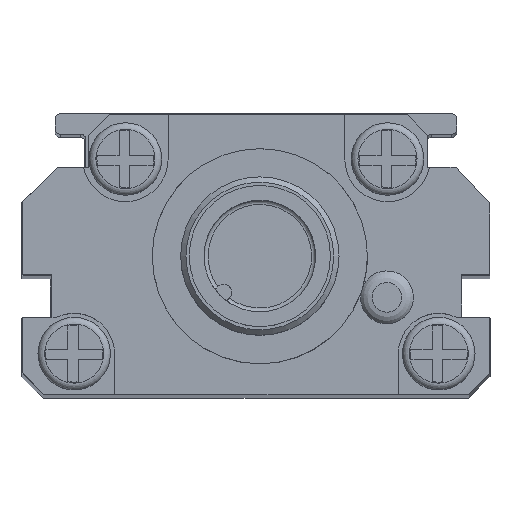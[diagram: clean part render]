
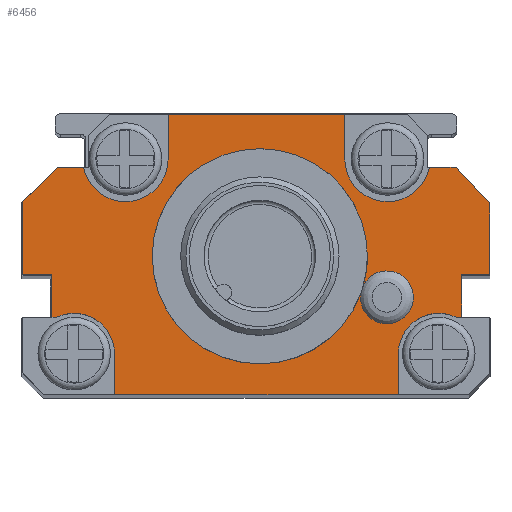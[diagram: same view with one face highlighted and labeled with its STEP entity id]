
A CAD part, top view. The second image highlights one B-rep face of the part: STEP entity #6456.
In plain terms, the highlighted planar face has unit normal (0, 0, 1).
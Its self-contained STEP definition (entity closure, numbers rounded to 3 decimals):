
#6249=CARTESIAN_POINT('',(53.343,44.72,147.32));
#6250=DIRECTION('',(0.0,0.0,1.0));
#6251=DIRECTION('',(1.0,0.0,0.0));
#6252=AXIS2_PLACEMENT_3D('',#6249,#6250,#6251);
#6253=PLANE('',#6252);
#6254=CARTESIAN_POINT('',(68.205,40.817,147.32));
#6255=VERTEX_POINT('',#6254);
#6256=CARTESIAN_POINT('',(68.631,40.817,147.32));
#6257=VERTEX_POINT('',#6256);
#6258=CARTESIAN_POINT('',(68.205,40.817,147.32));
#6259=DIRECTION('',(1.0,0.0,0.0));
#6260=VECTOR('',#6259,0.426);
#6261=LINE('',#6258,#6260);
#6262=EDGE_CURVE('',#6255,#6257,#6261,.T.);
#6263=ORIENTED_EDGE('',*,*,#6262,.T.);
#6264=CARTESIAN_POINT('',(68.631,43.992,147.32));
#6265=VERTEX_POINT('',#6264);
#6266=CARTESIAN_POINT('',(68.631,43.992,147.32));
#6267=DIRECTION('',(0.0,-1.0,0.0));
#6268=VECTOR('',#6267,3.175);
#6269=LINE('',#6266,#6268);
#6270=EDGE_CURVE('',#6265,#6257,#6269,.T.);
#6271=ORIENTED_EDGE('',*,*,#6270,.F.);
#6272=CARTESIAN_POINT('',(70.72,43.992,147.32));
#6273=VERTEX_POINT('',#6272);
#6274=CARTESIAN_POINT('',(70.72,43.992,147.32));
#6275=DIRECTION('',(-1.0,0.0,0.0));
#6276=VECTOR('',#6275,2.09);
#6277=LINE('',#6274,#6276);
#6278=EDGE_CURVE('',#6273,#6265,#6277,.T.);
#6279=ORIENTED_EDGE('',*,*,#6278,.F.);
#6280=CARTESIAN_POINT('',(70.72,49.241,147.32));
#6281=VERTEX_POINT('',#6280);
#6282=CARTESIAN_POINT('',(70.72,49.241,147.32));
#6283=DIRECTION('',(0.0,-1.0,0.0));
#6284=VECTOR('',#6283,5.248);
#6285=LINE('',#6282,#6284);
#6286=EDGE_CURVE('',#6281,#6273,#6285,.T.);
#6287=ORIENTED_EDGE('',*,*,#6286,.F.);
#6288=CARTESIAN_POINT('',(68.203,51.984,147.32));
#6289=VERTEX_POINT('',#6288);
#6290=CARTESIAN_POINT('',(68.203,51.984,147.32));
#6291=DIRECTION('',(0.676,-0.737,0.0));
#6292=VECTOR('',#6291,3.723);
#6293=LINE('',#6290,#6292);
#6294=EDGE_CURVE('',#6289,#6281,#6293,.T.);
#6295=ORIENTED_EDGE('',*,*,#6294,.F.);
#6296=CARTESIAN_POINT('',(66.218,51.984,147.32));
#6297=VERTEX_POINT('',#6296);
#6298=CARTESIAN_POINT('',(66.218,51.984,147.32));
#6299=DIRECTION('',(1.0,0.0,0.0));
#6300=VECTOR('',#6299,1.986);
#6301=LINE('',#6298,#6300);
#6302=EDGE_CURVE('',#6297,#6289,#6301,.T.);
#6303=ORIENTED_EDGE('',*,*,#6302,.F.);
#6304=CARTESIAN_POINT('',(59.925,52.585,147.32));
#6305=VERTEX_POINT('',#6304);
#6306=CARTESIAN_POINT('',(63.1,52.585,147.32));
#6307=DIRECTION('',(0.0,0.0,-1.0));
#6308=DIRECTION('',(1.0,0.0,0.0));
#6309=AXIS2_PLACEMENT_3D('',#6306,#6307,#6308);
#6310=CIRCLE('',#6309,3.175);
#6311=EDGE_CURVE('',#6297,#6305,#6310,.T.);
#6312=ORIENTED_EDGE('',*,*,#6311,.T.);
#6313=CARTESIAN_POINT('',(59.925,55.887,147.32));
#6314=VERTEX_POINT('',#6313);
#6315=CARTESIAN_POINT('',(59.925,52.585,147.32));
#6316=DIRECTION('',(0.0,1.0,0.0));
#6317=VECTOR('',#6316,3.302);
#6318=LINE('',#6315,#6317);
#6319=EDGE_CURVE('',#6305,#6314,#6318,.T.);
#6320=ORIENTED_EDGE('',*,*,#6319,.T.);
#6321=CARTESIAN_POINT('',(46.787,55.887,147.32));
#6322=VERTEX_POINT('',#6321);
#6323=CARTESIAN_POINT('',(46.787,55.887,147.32));
#6324=DIRECTION('',(1.0,0.0,0.0));
#6325=VECTOR('',#6324,13.139);
#6326=LINE('',#6323,#6325);
#6327=EDGE_CURVE('',#6322,#6314,#6326,.T.);
#6328=ORIENTED_EDGE('',*,*,#6327,.F.);
#6329=CARTESIAN_POINT('',(46.787,52.585,147.32));
#6330=VERTEX_POINT('',#6329);
#6331=CARTESIAN_POINT('',(46.787,55.887,147.32));
#6332=DIRECTION('',(0.0,-1.0,0.0));
#6333=VECTOR('',#6332,3.302);
#6334=LINE('',#6331,#6333);
#6335=EDGE_CURVE('',#6322,#6330,#6334,.T.);
#6336=ORIENTED_EDGE('',*,*,#6335,.T.);
#6337=CARTESIAN_POINT('',(40.494,51.984,147.32));
#6338=VERTEX_POINT('',#6337);
#6339=CARTESIAN_POINT('',(43.612,52.585,147.32));
#6340=DIRECTION('',(0.,0.,-1.));
#6341=DIRECTION('',(0.982,0.189,0.));
#6342=AXIS2_PLACEMENT_3D('',#6339,#6340,#6341);
#6343=CIRCLE('',#6342,3.175);
#6344=EDGE_CURVE('',#6330,#6338,#6343,.T.);
#6345=ORIENTED_EDGE('',*,*,#6344,.T.);
#6346=CARTESIAN_POINT('',(38.547,51.984,147.32));
#6347=VERTEX_POINT('',#6346);
#6348=CARTESIAN_POINT('',(38.547,51.984,147.32));
#6349=DIRECTION('',(1.0,0.0,0.0));
#6350=VECTOR('',#6349,1.947);
#6351=LINE('',#6348,#6350);
#6352=EDGE_CURVE('',#6347,#6338,#6351,.T.);
#6353=ORIENTED_EDGE('',*,*,#6352,.F.);
#6354=CARTESIAN_POINT('',(35.992,49.429,147.32));
#6355=VERTEX_POINT('',#6354);
#6356=CARTESIAN_POINT('',(35.992,49.429,147.32));
#6357=DIRECTION('',(0.707,0.707,0.0));
#6358=VECTOR('',#6357,3.614);
#6359=LINE('',#6356,#6358);
#6360=EDGE_CURVE('',#6355,#6347,#6359,.T.);
#6361=ORIENTED_EDGE('',*,*,#6360,.F.);
#6362=CARTESIAN_POINT('',(35.992,43.992,147.32));
#6363=VERTEX_POINT('',#6362);
#6364=CARTESIAN_POINT('',(35.992,43.992,147.32));
#6365=DIRECTION('',(0.0,1.0,0.0));
#6366=VECTOR('',#6365,5.436);
#6367=LINE('',#6364,#6366);
#6368=EDGE_CURVE('',#6363,#6355,#6367,.T.);
#6369=ORIENTED_EDGE('',*,*,#6368,.F.);
#6370=CARTESIAN_POINT('',(38.151,43.992,147.32));
#6371=VERTEX_POINT('',#6370);
#6372=CARTESIAN_POINT('',(38.151,43.992,147.32));
#6373=DIRECTION('',(-1.0,0.0,0.0));
#6374=VECTOR('',#6373,2.159);
#6375=LINE('',#6372,#6374);
#6376=EDGE_CURVE('',#6371,#6363,#6375,.T.);
#6377=ORIENTED_EDGE('',*,*,#6376,.F.);
#6378=CARTESIAN_POINT('',(38.151,40.817,147.32));
#6379=VERTEX_POINT('',#6378);
#6380=CARTESIAN_POINT('',(38.151,40.817,147.32));
#6381=DIRECTION('',(0.0,1.0,0.0));
#6382=VECTOR('',#6381,3.175);
#6383=LINE('',#6380,#6382);
#6384=EDGE_CURVE('',#6379,#6371,#6383,.T.);
#6385=ORIENTED_EDGE('',*,*,#6384,.F.);
#6386=CARTESIAN_POINT('',(38.507,40.817,147.32));
#6387=VERTEX_POINT('',#6386);
#6388=CARTESIAN_POINT('',(38.151,40.817,147.32));
#6389=DIRECTION('',(1.0,0.0,0.0));
#6390=VECTOR('',#6389,0.357);
#6391=LINE('',#6388,#6390);
#6392=EDGE_CURVE('',#6379,#6387,#6391,.T.);
#6393=ORIENTED_EDGE('',*,*,#6392,.T.);
#6394=CARTESIAN_POINT('',(42.802,38.111,147.32));
#6395=VERTEX_POINT('',#6394);
#6396=CARTESIAN_POINT('',(39.802,38.111,147.32));
#6397=DIRECTION('',(0.0,0.0,-1.0));
#6398=DIRECTION('',(1.0,0.0,0.0));
#6399=AXIS2_PLACEMENT_3D('',#6396,#6397,#6398);
#6400=CIRCLE('',#6399,3.);
#6401=EDGE_CURVE('',#6387,#6395,#6400,.T.);
#6402=ORIENTED_EDGE('',*,*,#6401,.T.);
#6403=CARTESIAN_POINT('',(42.802,35.063,147.32));
#6404=VERTEX_POINT('',#6403);
#6405=CARTESIAN_POINT('',(42.802,38.111,147.32));
#6406=DIRECTION('',(0.0,-1.0,0.0));
#6407=VECTOR('',#6406,3.048);
#6408=LINE('',#6405,#6407);
#6409=EDGE_CURVE('',#6395,#6404,#6408,.T.);
#6410=ORIENTED_EDGE('',*,*,#6409,.T.);
#6411=CARTESIAN_POINT('',(63.91,35.063,147.32));
#6412=VERTEX_POINT('',#6411);
#6413=CARTESIAN_POINT('',(63.91,35.063,147.32));
#6414=DIRECTION('',(-1.0,0.0,0.0));
#6415=VECTOR('',#6414,21.109);
#6416=LINE('',#6413,#6415);
#6417=EDGE_CURVE('',#6412,#6404,#6416,.T.);
#6418=ORIENTED_EDGE('',*,*,#6417,.F.);
#6419=CARTESIAN_POINT('',(63.91,38.111,147.32));
#6420=VERTEX_POINT('',#6419);
#6421=CARTESIAN_POINT('',(63.91,35.063,147.32));
#6422=DIRECTION('',(0.0,1.0,0.0));
#6423=VECTOR('',#6422,3.048);
#6424=LINE('',#6421,#6423);
#6425=EDGE_CURVE('',#6412,#6420,#6424,.T.);
#6426=ORIENTED_EDGE('',*,*,#6425,.T.);
#6427=CARTESIAN_POINT('',(66.91,38.111,147.32));
#6428=DIRECTION('',(0.,0.,-1.));
#6429=DIRECTION('',(0.431,0.902,0.));
#6430=AXIS2_PLACEMENT_3D('',#6427,#6428,#6429);
#6431=CIRCLE('',#6430,3.);
#6432=EDGE_CURVE('',#6420,#6255,#6431,.T.);
#6433=ORIENTED_EDGE('',*,*,#6432,.T.);
#6434=EDGE_LOOP('',(#6263,#6271,#6279,#6287,#6295,#6303,#6312,#6320,#6328,#6336,#6345,#6353,#6361,#6369,#6377,#6385,#6393,#6402,#6410,#6418,#6426,#6433));
#6435=FACE_OUTER_BOUND('',#6434,.T.);
#6436=CARTESIAN_POINT('',(61.314,43.206,147.32));
#6437=VERTEX_POINT('',#6436);
#6438=CARTESIAN_POINT('',(61.109,42.57,147.32));
#6439=VERTEX_POINT('',#6438);
#6440=CARTESIAN_POINT('',(63.055,42.292,147.32));
#6441=DIRECTION('',(0.0,0.0,-1.0));
#6442=DIRECTION('',(-1.0,0.0,0.0));
#6443=AXIS2_PLACEMENT_3D('',#6440,#6441,#6442);
#6444=CIRCLE('',#6443,1.966);
#6445=EDGE_CURVE('',#6437,#6439,#6444,.T.);
#6446=ORIENTED_EDGE('',*,*,#6445,.T.);
#6447=CARTESIAN_POINT('',(53.606,45.347,147.32));
#6448=DIRECTION('',(0.0,0.0,-1.0));
#6449=DIRECTION('',(1.0,0.0,0.0));
#6450=AXIS2_PLACEMENT_3D('',#6447,#6448,#6449);
#6451=CIRCLE('',#6450,8.0);
#6452=EDGE_CURVE('',#6439,#6437,#6451,.T.);
#6453=ORIENTED_EDGE('',*,*,#6452,.T.);
#6454=EDGE_LOOP('',(#6446,#6453));
#6455=FACE_BOUND('',#6454,.T.);
#6456=ADVANCED_FACE('',(#6435,#6455),#6253,.T.);
